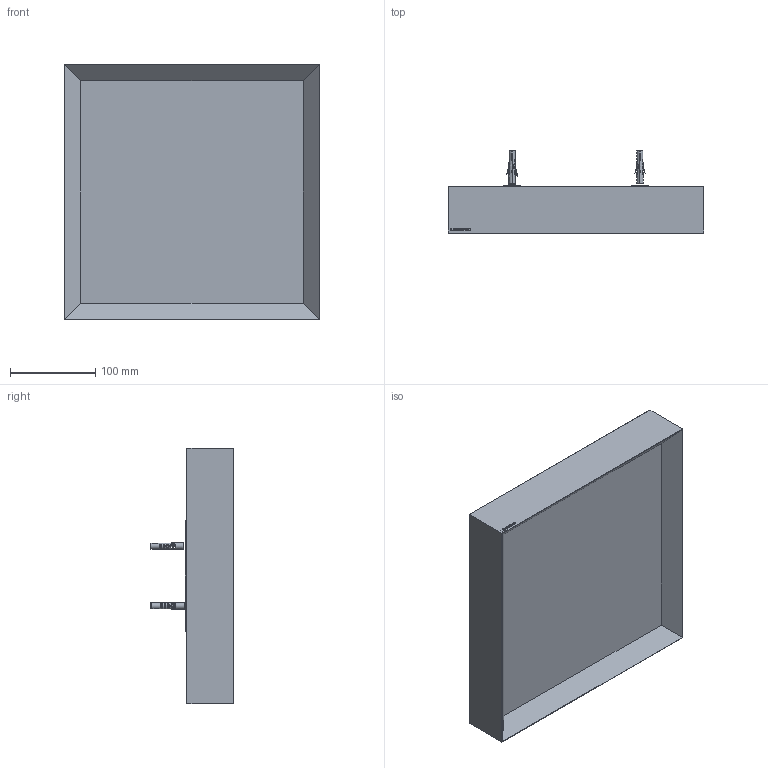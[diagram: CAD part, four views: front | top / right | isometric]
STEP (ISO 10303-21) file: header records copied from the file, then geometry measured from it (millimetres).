
FILE_DESCRIPTION((''),'2;1');
FILE_NAME('ASMFLOQ300_SW0001','2025-07-22T17:14:56',('Piccioli'),(''),'CREO PARAMETRIC BY PTC INC, 2025010','CREO PARAMETRIC BY PTC INC, 2025010','');
FILE_SCHEMA(('CONFIG_CONTROL_DESIGN'));
Length unit declared in the file: millimetre
Products named in the file (1): ASMFLOQ300_SW0001
Bounding box: 300 x 97.59 x 300 mm (x, y, z)
Surface area: 252644.4 mm2 (no closed solid volume)
Topology: 0 solids, 117 shells, 196 faces, 1739 edges, 1639 vertices
Faces by surface type: cylinder 78, plane 58, sphere 20, cone 18, bspline 15, torus 7
Entity records: 22808 total; most frequent: CARTESIAN_POINT 11543, DIRECTION 1947, ORIENTED_EDGE 1853, EDGE_CURVE 1739, VERTEX_POINT 1639, VECTOR 753, LINE 753, AXIS2_PLACEMENT_3D 597
